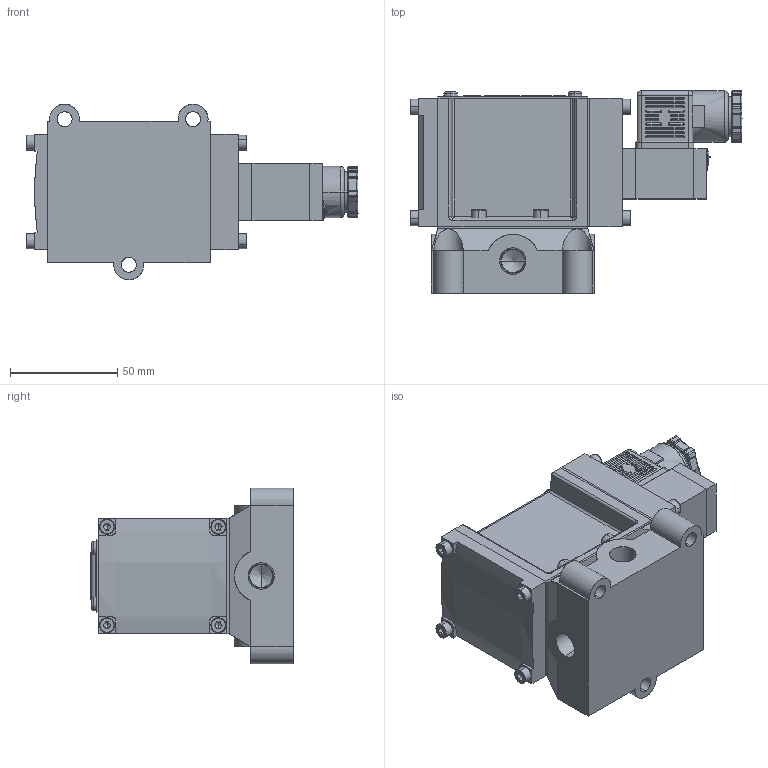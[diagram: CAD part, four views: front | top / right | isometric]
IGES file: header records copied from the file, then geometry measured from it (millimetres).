
Start section: SolidWorks IGES file using analytic representation for surfaces
Global section: file name: D:\Custom\3D繪製\PM\PM08\PMS2408#-02-#C#.IGS,1; native system: 5HSolidWorks 2014; preprocessor: SolidWorks 2014; author: Chieh_Lu; date: 150912.104102; units: millimetre
Bounding box: 155 x 94.64 x 82 mm (x, y, z)
Surface area: 106535.5 mm2 (no closed solid volume)
Topology: 0 solids, 0 shells, 1205 faces, 11599 edges, 11427 vertices
Faces by surface type: bspline 614, revolution 591
